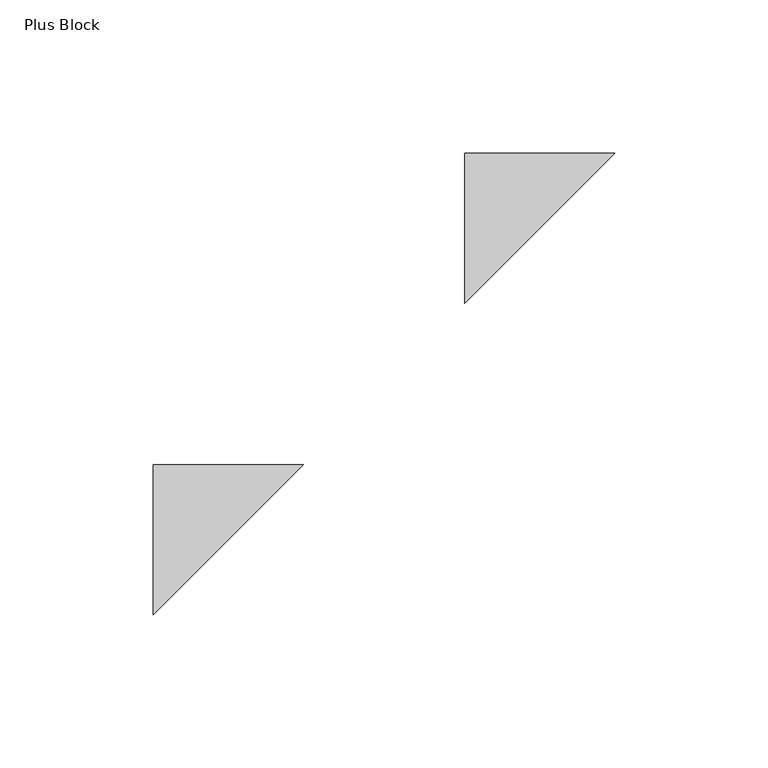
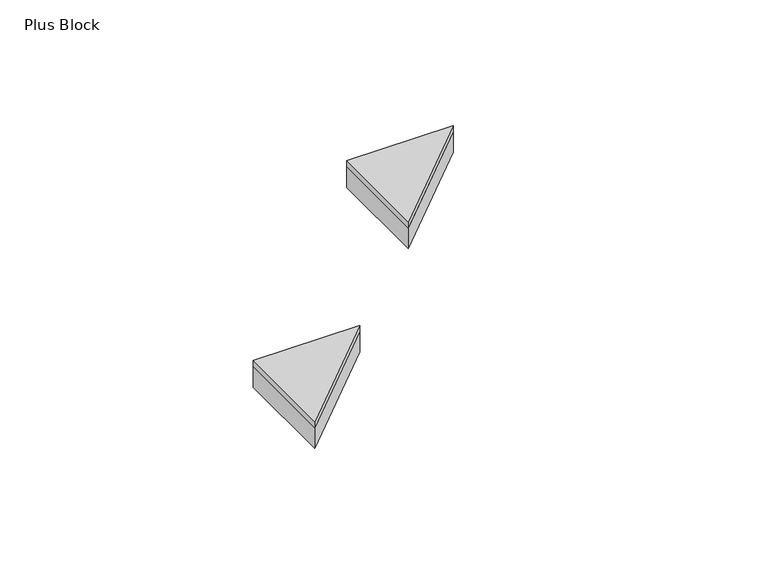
"""IFC4 building model written with IfcOpenShell, lengths in millimetres: proxy geometry, FilzFelt_Plus_Block : Plus Block."""

from ifc_helpers import new_model, si_unit, frame, origin, origin_with_axes, place, context, project, spatial, polyline, outline, extrude, source, transform, mapped, element, save


def plus_block_13f65815(model_context):
    return source(origin(), model_context, "Body", "SweptSolid", [
        extrude(outline(polyline([(-152.5, 1.7802978), (-152.5, 50.8333333), (-103.4469644, 50.8333333), (-152.5, 1.7802978)])), frame((0.0, 0.0, 10.0210937), z_axis=(0.0, 0.0, 1.0), x_axis=(1.0, 0.0, 0.0)), (0.0, 0.0, 1.0), 2.9765625),
        extrude(outline(polyline([(-50.8333333, 103.4469644), (-50.8333333, 152.5), (-1.7802978, 152.5), (-50.8333333, 103.4469644)])), frame((0.0, 0.0, 10.0210937), z_axis=(0.0, 0.0, 1.0), x_axis=(1.0, 0.0, 0.0)), (0.0, 0.0, 1.0), 2.9765625),
        extrude(outline(polyline([(-152.5, 1.7802978), (-152.5, 50.8333333), (-103.4469644, 50.8333333), (-152.5, 1.7802978)])), origin_with_axes(), (0.0, 0.0, 1.0), 10.0210938),
        extrude(outline(polyline([(-50.8333333, 103.4469644), (-50.8333333, 152.5), (-1.7802978, 152.5), (-50.8333333, 103.4469644)])), origin_with_axes(), (0.0, 0.0, 1.0), 10.0210938),
    ])


if __name__ == "__main__":
    model = new_model("IFC4")
    model_context = context("Model", 3, world=origin())
    ifc_project = project(units=[si_unit("LENGTHUNIT", "METRE", prefix="MILLI")], contexts=[model_context])
    site = spatial("IfcSite", under=ifc_project)
    building = spatial("IfcBuilding", under=site)
    placement = place(None, origin())
    plus_block_shape = plus_block_13f65815(model_context)
    element("IfcBuildingElementProxy", 1, Name="FilzFelt_Plus_Block : Plus Block", ObjectType="FilzFelt_Plus_Block : Plus Block", at=placement, inside=building, context=model_context, shape_type="MappedRepresentation", body=[
        mapped(plus_block_shape, transform((0.0, 0.0, 0.0), x_axis=(1.0, 0.0, 0.0), y_axis=(0.0, 1.0, 0.0), z_axis=(0.0, 0.0, 1.0))),
    ])
    save(model, "model.ifc")
